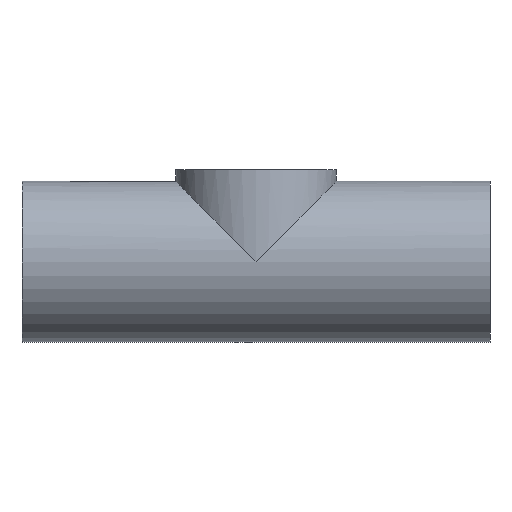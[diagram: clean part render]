
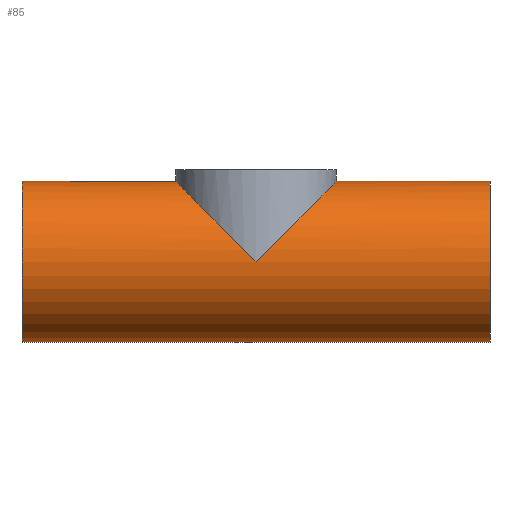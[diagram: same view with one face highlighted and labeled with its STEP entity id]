
A CAD part, front view. The second image highlights one B-rep face of the part: STEP entity #85.
In plain terms, the highlighted cylindrical face has radius 64.5 mm (diameter 129 mm), a full revolution.
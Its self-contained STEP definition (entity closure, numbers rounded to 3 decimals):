
#21 = EDGE_CURVE('',#22,#22,#24,.T.);
#22 = VERTEX_POINT('',#23);
#23 = CARTESIAN_POINT('',(-187.5,0.,-64.5));
#24 = SURFACE_CURVE('',#25,(#30,#42),.PCURVE_S1.);
#25 = CIRCLE('',#26,64.5);
#26 = AXIS2_PLACEMENT_3D('',#27,#28,#29);
#27 = CARTESIAN_POINT('',(-187.5,0.,0.));
#28 = DIRECTION('',(1.,-0.,0.));
#29 = DIRECTION('',(0.,0.,-1.));
#30 = PCURVE('',#31,#36);
#31 = PLANE('',#32);
#32 = AXIS2_PLACEMENT_3D('',#33,#34,#35);
#33 = CARTESIAN_POINT('',(-187.5,0.,0.));
#34 = DIRECTION('',(1.,0.,0.));
#35 = DIRECTION('',(0.,0.,-1.));
#36 = DEFINITIONAL_REPRESENTATION('',(#37),#41);
#37 = CIRCLE('',#38,64.5);
#38 = AXIS2_PLACEMENT_2D('',#39,#40);
#39 = CARTESIAN_POINT('',(0.,0.));
#40 = DIRECTION('',(1.,0.));
#41 = ( GEOMETRIC_REPRESENTATION_CONTEXT(2) 
PARAMETRIC_REPRESENTATION_CONTEXT() REPRESENTATION_CONTEXT('2D SPACE',''
  ) );
#42 = PCURVE('',#43,#48);
#43 = CYLINDRICAL_SURFACE('',#44,64.5);
#44 = AXIS2_PLACEMENT_3D('',#45,#46,#47);
#45 = CARTESIAN_POINT('',(-187.5,0.,0.));
#46 = DIRECTION('',(1.,0.,0.));
#47 = DIRECTION('',(0.,0.,-1.));
#48 = DEFINITIONAL_REPRESENTATION('',(#49),#53);
#49 = LINE('',#50,#51);
#50 = CARTESIAN_POINT('',(0.,0.));
#51 = VECTOR('',#52,1.);
#52 = DIRECTION('',(1.,0.));
#53 = ( GEOMETRIC_REPRESENTATION_CONTEXT(2) 
PARAMETRIC_REPRESENTATION_CONTEXT() REPRESENTATION_CONTEXT('2D SPACE',''
  ) );
#85 = ADVANCED_FACE('',(#86,#140),#43,.T.);
#86 = FACE_BOUND('',#87,.T.);
#87 = EDGE_LOOP('',(#88,#111,#138,#139));
#88 = ORIENTED_EDGE('',*,*,#89,.T.);
#89 = EDGE_CURVE('',#22,#90,#92,.T.);
#90 = VERTEX_POINT('',#91);
#91 = CARTESIAN_POINT('',(187.5,0.,-64.5));
#92 = SEAM_CURVE('',#93,(#97,#104),.PCURVE_S1.);
#93 = LINE('',#94,#95);
#94 = CARTESIAN_POINT('',(-187.5,0.,-64.5));
#95 = VECTOR('',#96,1.);
#96 = DIRECTION('',(1.,0.,0.));
#97 = PCURVE('',#43,#98);
#98 = DEFINITIONAL_REPRESENTATION('',(#99),#103);
#99 = LINE('',#100,#101);
#100 = CARTESIAN_POINT('',(6.283,-0.));
#101 = VECTOR('',#102,1.);
#102 = DIRECTION('',(0.,1.));
#103 = ( GEOMETRIC_REPRESENTATION_CONTEXT(2) 
PARAMETRIC_REPRESENTATION_CONTEXT() REPRESENTATION_CONTEXT('2D SPACE',''
  ) );
#104 = PCURVE('',#43,#105);
#105 = DEFINITIONAL_REPRESENTATION('',(#106),#110);
#106 = LINE('',#107,#108);
#107 = CARTESIAN_POINT('',(0.,-0.));
#108 = VECTOR('',#109,1.);
#109 = DIRECTION('',(0.,1.));
#110 = ( GEOMETRIC_REPRESENTATION_CONTEXT(2) 
PARAMETRIC_REPRESENTATION_CONTEXT() REPRESENTATION_CONTEXT('2D SPACE',''
  ) );
#111 = ORIENTED_EDGE('',*,*,#112,.F.);
#112 = EDGE_CURVE('',#90,#90,#113,.T.);
#113 = SURFACE_CURVE('',#114,(#119,#126),.PCURVE_S1.);
#114 = CIRCLE('',#115,64.5);
#115 = AXIS2_PLACEMENT_3D('',#116,#117,#118);
#116 = CARTESIAN_POINT('',(187.5,0.,0.));
#117 = DIRECTION('',(1.,-0.,0.));
#118 = DIRECTION('',(0.,0.,-1.));
#119 = PCURVE('',#43,#120);
#120 = DEFINITIONAL_REPRESENTATION('',(#121),#125);
#121 = LINE('',#122,#123);
#122 = CARTESIAN_POINT('',(0.,375.));
#123 = VECTOR('',#124,1.);
#124 = DIRECTION('',(1.,0.));
#125 = ( GEOMETRIC_REPRESENTATION_CONTEXT(2) 
PARAMETRIC_REPRESENTATION_CONTEXT() REPRESENTATION_CONTEXT('2D SPACE',''
  ) );
#126 = PCURVE('',#127,#132);
#127 = PLANE('',#128);
#128 = AXIS2_PLACEMENT_3D('',#129,#130,#131);
#129 = CARTESIAN_POINT('',(187.5,0.,0.));
#130 = DIRECTION('',(1.,0.,0.));
#131 = DIRECTION('',(0.,0.,-1.));
#132 = DEFINITIONAL_REPRESENTATION('',(#133),#137);
#133 = CIRCLE('',#134,64.5);
#134 = AXIS2_PLACEMENT_2D('',#135,#136);
#135 = CARTESIAN_POINT('',(0.,0.));
#136 = DIRECTION('',(1.,0.));
#137 = ( GEOMETRIC_REPRESENTATION_CONTEXT(2) 
PARAMETRIC_REPRESENTATION_CONTEXT() REPRESENTATION_CONTEXT('2D SPACE',''
  ) );
#138 = ORIENTED_EDGE('',*,*,#89,.F.);
#139 = ORIENTED_EDGE('',*,*,#21,.T.);
#140 = FACE_BOUND('',#141,.T.);
#141 = EDGE_LOOP('',(#142,#189,#227));
#142 = ORIENTED_EDGE('',*,*,#143,.F.);
#143 = EDGE_CURVE('',#144,#146,#148,.T.);
#144 = VERTEX_POINT('',#145);
#145 = CARTESIAN_POINT('',(0.,64.5,0.));
#146 = VERTEX_POINT('',#147);
#147 = CARTESIAN_POINT('',(0.,-64.5,0.));
#148 = SURFACE_CURVE('',#149,(#154,#169),.PCURVE_S1.);
#149 = ELLIPSE('',#150,91.217,64.5);
#150 = AXIS2_PLACEMENT_3D('',#151,#152,#153);
#151 = CARTESIAN_POINT('',(0.,0.,0.));
#152 = DIRECTION('',(0.707,-0.,0.707));
#153 = DIRECTION('',(0.707,0.,-0.707));
#154 = PCURVE('',#43,#155);
#155 = DEFINITIONAL_REPRESENTATION('',(#156),#168);
#156 = B_SPLINE_CURVE_WITH_KNOTS('',10,(#157,#158,#159,#160,#161,#162,
    #163,#164,#165,#166,#167),.UNSPECIFIED.,.F.,.F.,(11,11),(
    1.571,4.712),.PIECEWISE_BEZIER_KNOTS.);
#157 = CARTESIAN_POINT('',(1.571,187.5));
#158 = CARTESIAN_POINT('',(1.885,167.237));
#159 = CARTESIAN_POINT('',(2.199,146.973));
#160 = CARTESIAN_POINT('',(2.513,129.488));
#161 = CARTESIAN_POINT('',(2.827,117.558));
#162 = CARTESIAN_POINT('',(3.142,113.307));
#163 = CARTESIAN_POINT('',(3.456,117.558));
#164 = CARTESIAN_POINT('',(3.77,129.488));
#165 = CARTESIAN_POINT('',(4.084,146.973));
#166 = CARTESIAN_POINT('',(4.398,167.237));
#167 = CARTESIAN_POINT('',(4.712,187.5));
#168 = ( GEOMETRIC_REPRESENTATION_CONTEXT(2) 
PARAMETRIC_REPRESENTATION_CONTEXT() REPRESENTATION_CONTEXT('2D SPACE',''
  ) );
#169 = PCURVE('',#170,#175);
#170 = CYLINDRICAL_SURFACE('',#171,64.5);
#171 = AXIS2_PLACEMENT_3D('',#172,#173,#174);
#172 = CARTESIAN_POINT('',(0.,0.,0.));
#173 = DIRECTION('',(0.,0.,1.));
#174 = DIRECTION('',(1.,0.,0.));
#175 = DEFINITIONAL_REPRESENTATION('',(#176),#188);
#176 = B_SPLINE_CURVE_WITH_KNOTS('',10,(#177,#178,#179,#180,#181,#182,
    #183,#184,#185,#186,#187),.UNSPECIFIED.,.F.,.F.,(11,11),(
    1.571,4.712),.PIECEWISE_BEZIER_KNOTS.);
#177 = CARTESIAN_POINT('',(1.571,0.));
#178 = CARTESIAN_POINT('',(1.885,20.263));
#179 = CARTESIAN_POINT('',(2.199,40.527));
#180 = CARTESIAN_POINT('',(2.513,58.012));
#181 = CARTESIAN_POINT('',(2.827,69.942));
#182 = CARTESIAN_POINT('',(3.142,74.193));
#183 = CARTESIAN_POINT('',(3.456,69.942));
#184 = CARTESIAN_POINT('',(3.77,58.012));
#185 = CARTESIAN_POINT('',(4.084,40.527));
#186 = CARTESIAN_POINT('',(4.398,20.263));
#187 = CARTESIAN_POINT('',(4.712,0.));
#188 = ( GEOMETRIC_REPRESENTATION_CONTEXT(2) 
PARAMETRIC_REPRESENTATION_CONTEXT() REPRESENTATION_CONTEXT('2D SPACE',''
  ) );
#189 = ORIENTED_EDGE('',*,*,#190,.T.);
#190 = EDGE_CURVE('',#144,#191,#193,.T.);
#191 = VERTEX_POINT('',#192);
#192 = CARTESIAN_POINT('',(64.5,0.,64.5));
#193 = SURFACE_CURVE('',#194,(#199,#213),.PCURVE_S1.);
#194 = ELLIPSE('',#195,91.217,64.5);
#195 = AXIS2_PLACEMENT_3D('',#196,#197,#198);
#196 = CARTESIAN_POINT('',(0.,0.,0.));
#197 = DIRECTION('',(0.707,0.,-0.707));
#198 = DIRECTION('',(0.707,0.,0.707));
#199 = PCURVE('',#43,#200);
#200 = DEFINITIONAL_REPRESENTATION('',(#201),#212);
#201 = B_SPLINE_CURVE_WITH_KNOTS('',9,(#202,#203,#204,#205,#206,#207,
    #208,#209,#210,#211),.UNSPECIFIED.,.F.,.F.,(10,10),(4.712,
    6.283),.PIECEWISE_BEZIER_KNOTS.);
#202 = CARTESIAN_POINT('',(1.571,187.5));
#203 = CARTESIAN_POINT('',(1.745,198.757));
#204 = CARTESIAN_POINT('',(1.92,210.015));
#205 = CARTESIAN_POINT('',(2.094,220.776));
#206 = CARTESIAN_POINT('',(2.269,230.545));
#207 = CARTESIAN_POINT('',(2.443,238.868));
#208 = CARTESIAN_POINT('',(2.618,245.369));
#209 = CARTESIAN_POINT('',(2.793,249.79));
#210 = CARTESIAN_POINT('',(2.967,252.));
#211 = CARTESIAN_POINT('',(3.142,252.));
#212 = ( GEOMETRIC_REPRESENTATION_CONTEXT(2) 
PARAMETRIC_REPRESENTATION_CONTEXT() REPRESENTATION_CONTEXT('2D SPACE',''
  ) );
#213 = PCURVE('',#170,#214);
#214 = DEFINITIONAL_REPRESENTATION('',(#215),#226);
#215 = B_SPLINE_CURVE_WITH_KNOTS('',9,(#216,#217,#218,#219,#220,#221,
    #222,#223,#224,#225),.UNSPECIFIED.,.F.,.F.,(10,10),(4.712,
    6.283),.PIECEWISE_BEZIER_KNOTS.);
#216 = CARTESIAN_POINT('',(1.571,0.));
#217 = CARTESIAN_POINT('',(1.396,11.257));
#218 = CARTESIAN_POINT('',(1.222,22.515));
#219 = CARTESIAN_POINT('',(1.047,33.276));
#220 = CARTESIAN_POINT('',(0.873,43.045));
#221 = CARTESIAN_POINT('',(0.698,51.368));
#222 = CARTESIAN_POINT('',(0.524,57.869));
#223 = CARTESIAN_POINT('',(0.349,62.29));
#224 = CARTESIAN_POINT('',(0.175,64.5));
#225 = CARTESIAN_POINT('',(0.,64.5));
#226 = ( GEOMETRIC_REPRESENTATION_CONTEXT(2) 
PARAMETRIC_REPRESENTATION_CONTEXT() REPRESENTATION_CONTEXT('2D SPACE',''
  ) );
#227 = ORIENTED_EDGE('',*,*,#228,.T.);
#228 = EDGE_CURVE('',#191,#146,#229,.T.);
#229 = SURFACE_CURVE('',#230,(#235,#249),.PCURVE_S1.);
#230 = ELLIPSE('',#231,91.217,64.5);
#231 = AXIS2_PLACEMENT_3D('',#232,#233,#234);
#232 = CARTESIAN_POINT('',(0.,0.,0.));
#233 = DIRECTION('',(0.707,0.,-0.707));
#234 = DIRECTION('',(0.707,0.,0.707));
#235 = PCURVE('',#43,#236);
#236 = DEFINITIONAL_REPRESENTATION('',(#237),#248);
#237 = B_SPLINE_CURVE_WITH_KNOTS('',9,(#238,#239,#240,#241,#242,#243,
    #244,#245,#246,#247),.UNSPECIFIED.,.F.,.F.,(10,10),(0.,
    1.571),.PIECEWISE_BEZIER_KNOTS.);
#238 = CARTESIAN_POINT('',(3.142,252.));
#239 = CARTESIAN_POINT('',(3.316,252.));
#240 = CARTESIAN_POINT('',(3.491,249.79));
#241 = CARTESIAN_POINT('',(3.665,245.369));
#242 = CARTESIAN_POINT('',(3.84,238.868));
#243 = CARTESIAN_POINT('',(4.014,230.545));
#244 = CARTESIAN_POINT('',(4.189,220.776));
#245 = CARTESIAN_POINT('',(4.363,210.015));
#246 = CARTESIAN_POINT('',(4.538,198.757));
#247 = CARTESIAN_POINT('',(4.712,187.5));
#248 = ( GEOMETRIC_REPRESENTATION_CONTEXT(2) 
PARAMETRIC_REPRESENTATION_CONTEXT() REPRESENTATION_CONTEXT('2D SPACE',''
  ) );
#249 = PCURVE('',#170,#250);
#250 = DEFINITIONAL_REPRESENTATION('',(#251),#262);
#251 = B_SPLINE_CURVE_WITH_KNOTS('',9,(#252,#253,#254,#255,#256,#257,
    #258,#259,#260,#261),.UNSPECIFIED.,.F.,.F.,(10,10),(0.,
    1.571),.PIECEWISE_BEZIER_KNOTS.);
#252 = CARTESIAN_POINT('',(6.283,64.5));
#253 = CARTESIAN_POINT('',(6.109,64.5));
#254 = CARTESIAN_POINT('',(5.934,62.29));
#255 = CARTESIAN_POINT('',(5.76,57.869));
#256 = CARTESIAN_POINT('',(5.585,51.368));
#257 = CARTESIAN_POINT('',(5.411,43.045));
#258 = CARTESIAN_POINT('',(5.236,33.276));
#259 = CARTESIAN_POINT('',(5.061,22.515));
#260 = CARTESIAN_POINT('',(4.887,11.257));
#261 = CARTESIAN_POINT('',(4.712,0.));
#262 = ( GEOMETRIC_REPRESENTATION_CONTEXT(2) 
PARAMETRIC_REPRESENTATION_CONTEXT() REPRESENTATION_CONTEXT('2D SPACE',''
  ) );
